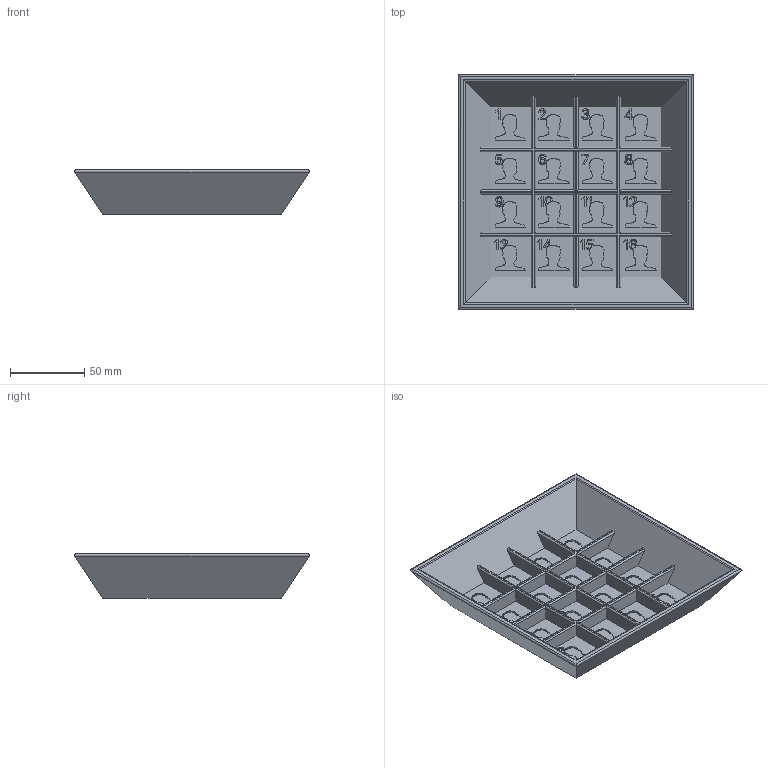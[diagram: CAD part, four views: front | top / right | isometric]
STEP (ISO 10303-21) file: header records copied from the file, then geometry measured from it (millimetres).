
FILE_DESCRIPTION(/* description */ ('','CAx-IF Rec.Pracs.---Representation and Presentation of Product Manufacturing Information (PMI)---4.0---2014-10-13'),/* implementation_level */ '2;1');
FILE_NAME(/* name */ 'yaju_tray_ou.step',/* time_stamp */ '2025-03-03T01:04:54+09:00',/* author */ (''),/* organization */ (''),/* preprocessor_version */ 'ST-DEVELOPER v20',/* originating_system */ 'Autodesk Translation Framework v13.20.0.188',/* authorisation */ '');
FILE_SCHEMA (('AP242_MANAGED_MODEL_BASED_3D_ENGINEERING_MIM_LF { 1 0 10303 442 1 1 4 }'));
Products named in the file (1): (未保存)
Bounding box: 158.26 x 158.26 x 30 mm (x, y, z)
Volume: 167600.4 mm3; surface area: 81638.6 mm2
Topology: 1 solids, 1 shells, 2023 faces, 5707 edges, 3790 vertices
Faces by surface type: bspline 1121, plane 846, cylinder 56
Entity records: 94136 total; most frequent: CARTESIAN_POINT 50288, ORIENTED_EDGE 11414, EDGE_CURVE 5707, DIRECTION 5289, VERTEX_POINT 3790, LINE 3347, VECTOR 3347, EDGE_LOOP 2127
